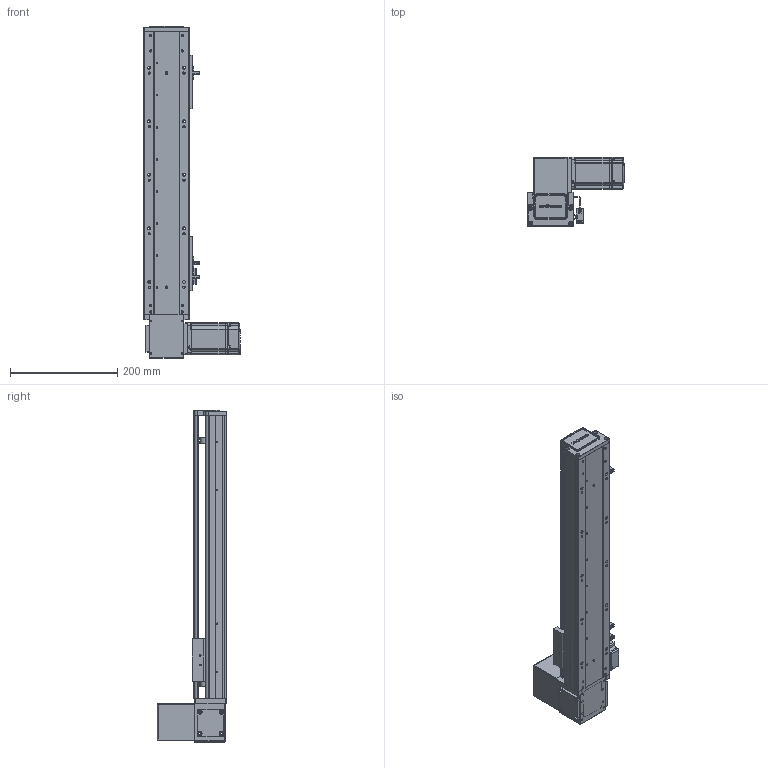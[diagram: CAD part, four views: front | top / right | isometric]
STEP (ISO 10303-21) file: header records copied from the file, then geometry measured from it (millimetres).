
FILE_DESCRIPTION (( 'STEP AP203' ), '1' );
FILE_NAME ('RY80-T-300-UR.SLDASM_350.step', '2021-03-01T02:25:43', ( '盈信电脑' ), ( '东莞市道滘镇水果街19号' ), 'SwSTEP 2.0', 'SolidWorks 2012', '' );
FILE_SCHEMA (( 'CONFIG_CONTROL_DESIGN' ));
Products named in the file (20): RY80-T-300-UR.SLDASM_350; RY80-T萇儂假蚾啣; 1; RY80-T肮祭謫奻殏俋欶; RY80-T-M4蹟翐2; RY100-T粣創揤踡裔; RY80-T翋肮祭謫裔啣; 滅袉蝶18-10; RY80-T-上下折同步轮盖板; RY80-T肮祭湍揤輸2; RY80-T-翋肮祭謫釱; RY80-T粣創揤踡輸; RY80-T肮祭湍揤輸1; 覜茼ん672; 672嫖萇羲壽假蚾釱; RY80俋离覜茼え; RY80-T-300-UR倰第奻裔啣_350; RY80-T-300-UR倰第菁釱_350; RY80-T綴裔啣; RY80-T肮祭謫臏賑輸
Assembly tree (23 placements, depth 2):
  RY80-T-300-UR.SLDASM_350
    RY80-T-300-UR倰第菁釱_350
    RY80-T肮祭謫臏賑輸
    RY80-T-300-UR倰第奻裔啣_350
    RY80-T綴裔啣
    672嫖萇羲壽假蚾釱  x2
    覜茼ん672  x3
    RY80俋离覜茼え
    RY80-T-翋肮祭謫釱
    RY80-T肮祭湍揤輸1
    RY80-T肮祭湍揤輸2
    RY80-T粣創揤踡輸
    滅袉蝶18-10  x2
    RY100-T粣創揤踡裔
    RY80-T翋肮祭謫裔啣
    RY80-T-上下折同步轮盖板
    1
    RY80-T肮祭謫奻殏俋欶
    RY80-T-M4蹟翐2
    RY80-T萇儂假蚾啣
Bounding box: 180 x 130.5 x 620 mm (x, y, z)
Volume: 1349152.4 mm3; surface area: 537217.4 mm2
Topology: 23 solids, 23 shells, 2394 faces, 6570 edges, 4266 vertices
Faces by surface type: plane 1321, cylinder 878, cone 139, bspline 56
Entity records: 75452 total; most frequent: CARTESIAN_POINT 17668, ORIENTED_EDGE 11784, DIRECTION 11198, EDGE_CURVE 5892, VERTEX_POINT 3870, AXIS2_PLACEMENT_3D 3740, VECTOR 3718, LINE 3718
